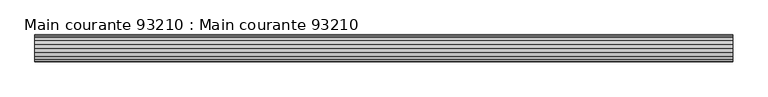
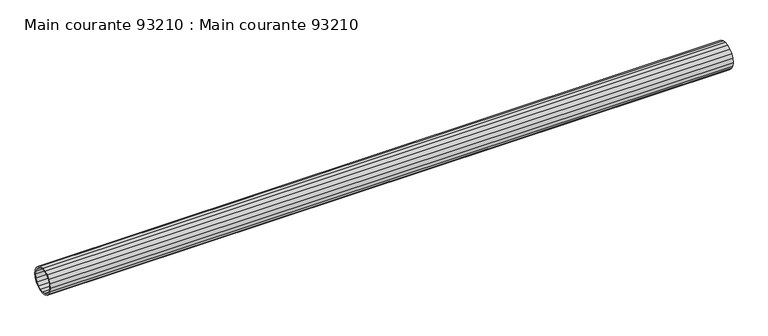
"""IFC4 building model written with IfcOpenShell, lengths in millimetres: beam geometry, Main courante 93210 : Main courante 93210."""

from ifc_helpers import new_model, si_unit, frame, origin, place, context, project, spatial, polyline, outline, extrude, source, transform, mapped, element, save


def main_courante_93210_main_courante_93210_54ef18eb(model_context):
    return source(origin(), model_context, "Body", "SweptSolid", [
        extrude(outline(polyline([(-14149.8127604, 8787.9680149), (-14142.35, 8789.15), (-14134.8872396, 8787.9680149), (-14128.1549862, 8784.5377604), (-14122.8122396, 8779.1950138), (-14119.3819851, 8772.4627604), (-14118.2, 8765.0), (-14119.3819851, 8757.5372396), (-14122.8122396, 8750.8049862), (-14128.1549862, 8745.4622396), (-14134.8872396, 8742.0319851), (-14142.35, 8740.85), (-14149.8127604, 8742.0319851), (-14156.5450138, 8745.4622396), (-14161.8877604, 8750.8049862), (-14165.3180149, 8757.5372396), (-14166.5, 8765.0), (-14165.3180149, 8772.4627604), (-14161.8877604, 8779.1950138), (-14156.5450138, 8784.5377604), (-14149.8127604, 8787.9680149)]), holes=[polyline([(-14164.0, 8765.0), (-14162.9403736, 8758.3097821), (-14159.8652179, 8752.2744493), (-14155.0755507, 8747.4847821), (-14149.0402179, 8744.4096264), (-14142.35, 8743.35), (-14135.6597821, 8744.4096264), (-14129.6244493, 8747.4847821), (-14124.8347821, 8752.2744493), (-14121.7596264, 8758.3097821), (-14120.7, 8765.0), (-14121.7596264, 8771.6902179), (-14124.8347821, 8777.7255507), (-14129.6244493, 8782.5152179), (-14135.6597821, 8785.5903736), (-14142.35, 8786.65), (-14149.0402179, 8785.5903736), (-14155.0755507, 8782.5152179), (-14159.8652179, 8777.7255507), (-14162.9403736, 8771.6902179), (-14164.0, 8765.0)])]), frame((11539.2815707, 0.0, 0.0), z_axis=(1.0, 0.0, 0.0), x_axis=(0.0, 1.0, 0.0)), (0.0, 0.0, 1.0), 1249.7184292),
    ])


if __name__ == "__main__":
    model = new_model("IFC4")
    model_context = context("Model", 3, world=origin())
    ifc_project = project(units=[si_unit("LENGTHUNIT", "METRE", prefix="MILLI")], contexts=[model_context])
    site = spatial("IfcSite", under=ifc_project)
    building = spatial("IfcBuilding", under=site)
    placement = place(None, origin())
    main_courante_93210_main_courante_93210_shape = main_courante_93210_main_courante_93210_54ef18eb(model_context)
    element("IfcBeam", 1, ObjectType="Main courante 93210 : Main courante 93210", at=placement, inside=building, context=model_context, shape_type="MappedRepresentation", body=[
        mapped(main_courante_93210_main_courante_93210_shape, transform((0.0, 0.0, 0.0), x_axis=(1.0, 0.0, 0.0), y_axis=(0.0, 1.0, 0.0), z_axis=(0.0, 0.0, 1.0))),
    ])
    save(model, "model.ifc")
